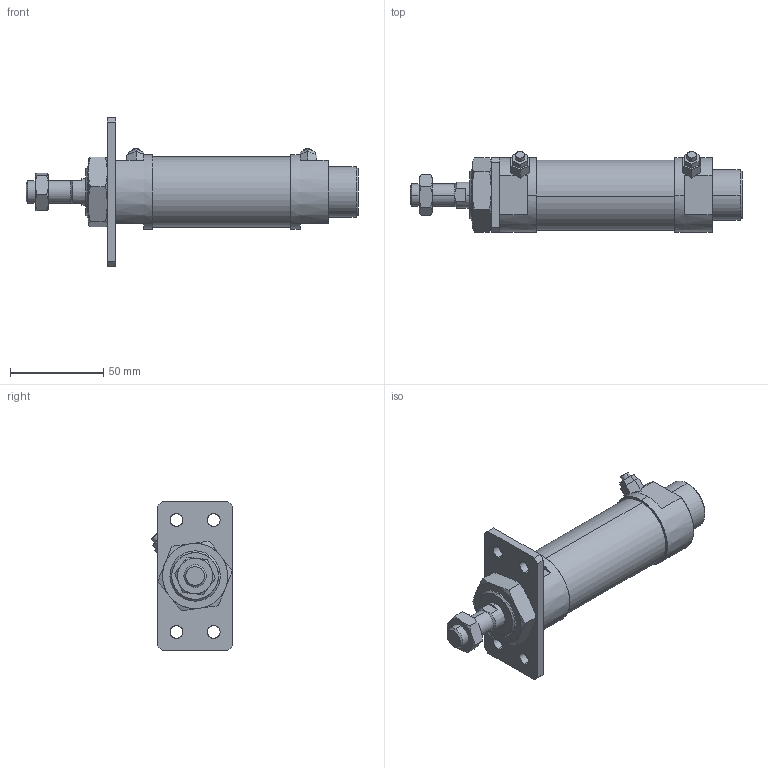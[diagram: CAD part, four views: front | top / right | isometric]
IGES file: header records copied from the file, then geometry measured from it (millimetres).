
Start section: SolidWorks IGES file using analytic representation for surfaces
Global section: file name: C:\Users\Toshiba\Desktop\JG2-32-25-A.IGS; native system: SolidWorks 2014; preprocessor: SolidWorks 2014; author: Toshiba; date: 160419.084928; units: millimetre
Bounding box: 178 x 43.34 x 80 mm (x, y, z)
Surface area: 37563.8 mm2 (no closed solid volume)
Topology: 0 solids, 0 shells, 149 faces, 2346 edges, 2342 vertices
Faces by surface type: bspline 101, revolution 48
